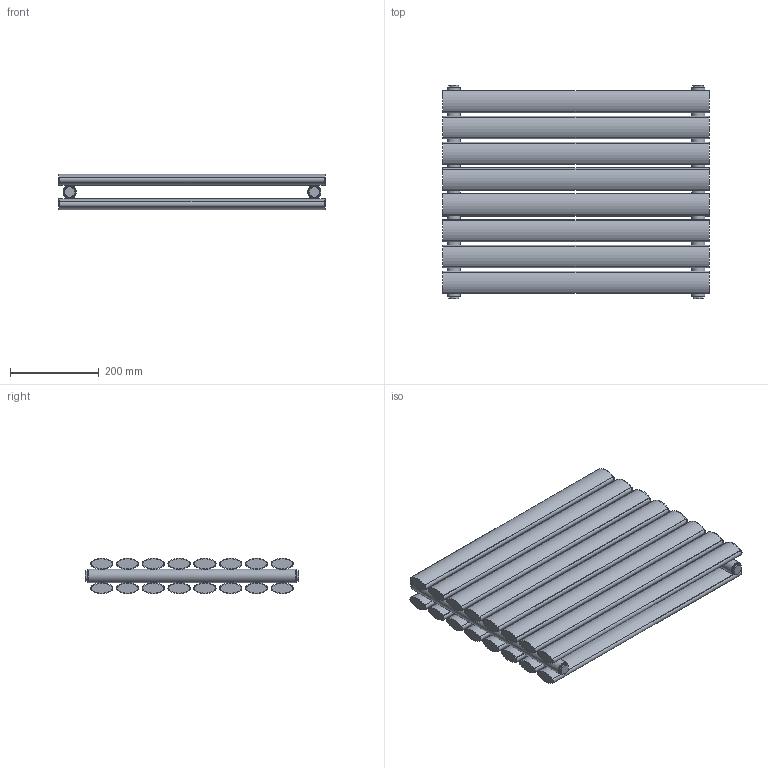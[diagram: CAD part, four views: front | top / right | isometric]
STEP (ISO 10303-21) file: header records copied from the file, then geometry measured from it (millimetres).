
FILE_DESCRIPTION(/* description */ (''),/* implementation_level */ '2;1');
FILE_NAME(/* name */ 'C:\Grzejniki\13DLUXRAD\pokojowe\FORTUNA\FORTUNA PODWÓJNA 600x468.iam.stp',/* time_stamp */ '2016-06-28T17:31:58+02:00',/* author */ ('m.szydziak'),/* organization */ (''),/* preprocessor_version */ 'ST-DEVELOPER v16.5',/* originating_system */ 'Autodesk Inventor 2017',/* authorisation */ '');
FILE_SCHEMA (('AUTOMOTIVE_DESIGN { 1 0 10303 214 3 1 1 }'));
Length unit declared in the file: millimetre
Products named in the file (5): FORTUNA PODWÓJNA 600x468; %%c30x1,5x468; 50x25x1,2x600; zaślepka fi30 G0,5inch; korek
Assembly tree (26 placements, depth 2):
  FORTUNA PODWÓJNA 600x468
    %%c30x1,5x468  x2
    50x25x1,2x600  x16
    zaślepka fi30 G0,5inch  x4
    korek  x4
Bounding box: 600 x 480 x 79.72 mm (x, y, z)
Volume: 1512826.7 mm3; surface area: 2469456.8 mm2
Topology: 26 solids, 26 shells, 308 faces, 740 edges, 516 vertices
Faces by surface type: cylinder 176, plane 132
Full cylindrical faces by diameter (mm): 5.8 x32, 18.631 x4, 24 x4, 27 x6, 30 x2
Entity records: 1455 total; most frequent: CARTESIAN_POINT 334, DIRECTION 242, ORIENTED_EDGE 150, AXIS2_PLACEMENT_3D 105, EDGE_CURVE 75, VERTEX_POINT 55, EDGE_LOOP 52, FACE_OUTER_BOUND 37
